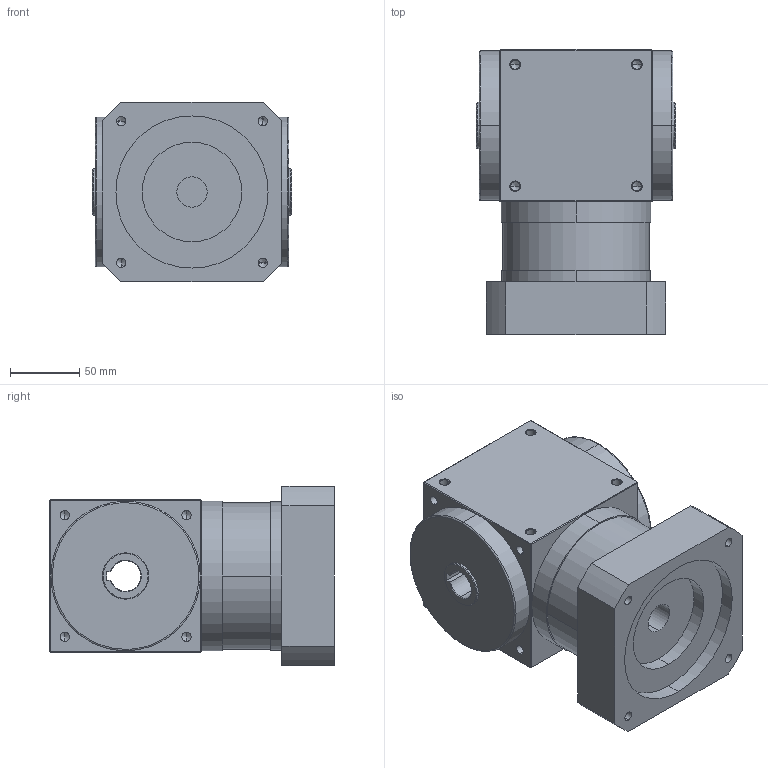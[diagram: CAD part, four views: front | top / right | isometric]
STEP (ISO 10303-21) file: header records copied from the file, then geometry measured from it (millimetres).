
FILE_DESCRIPTION (( 'STEP AP214' ), '1' );
FILE_NAME ('AT110-FH-L1 -22-110-145-m8.STEP', '2020-11-10T03:12:51', ( '微软用户' ), ( '微软中国' ), 'SwSTEP 2.0', 'SolidWorks 2014', '' );
FILE_SCHEMA (( 'AUTOMOTIVE_DESIGN' ));
Length unit declared in the file: millimetre
Products named in the file (2): AT110-FH-L1 -22-110-145-m8
Bounding box: 144 x 206 x 130 mm (x, y, z)
Volume: 2523448.8 mm3; surface area: 181424.1 mm2
Topology: 2 solids, 2 shells, 233 faces, 600 edges, 334 vertices
Faces by surface type: cylinder 117, cone 66, plane 46, bspline 4
Entity records: 8816 total; most frequent: CARTESIAN_POINT 1541, ORIENTED_EDGE 1104, DIRECTION 1076, EDGE_CURVE 552, AXIS2_PLACEMENT_3D 413, VERTEX_POINT 334, EDGE_LOOP 270, LINE 250
